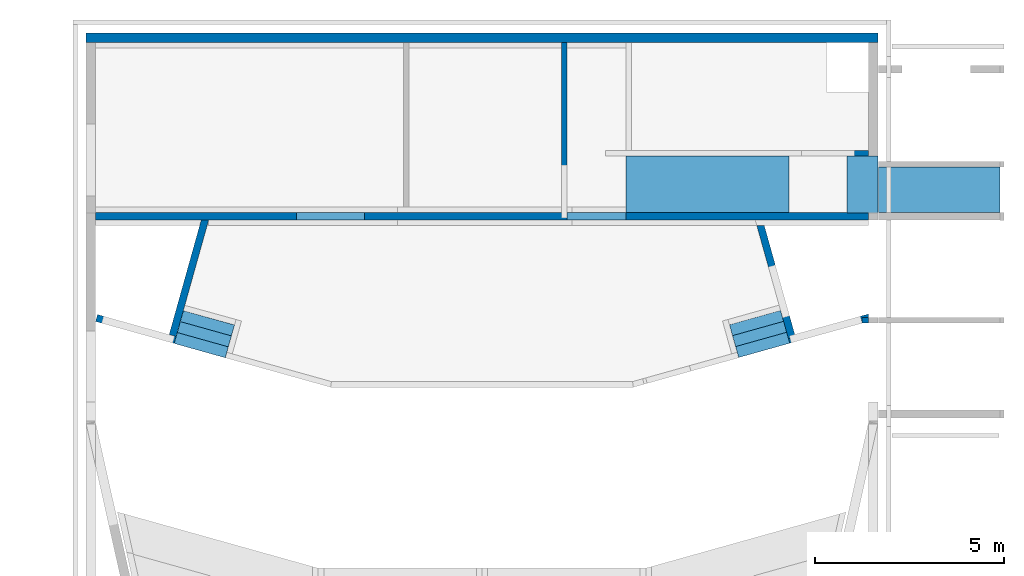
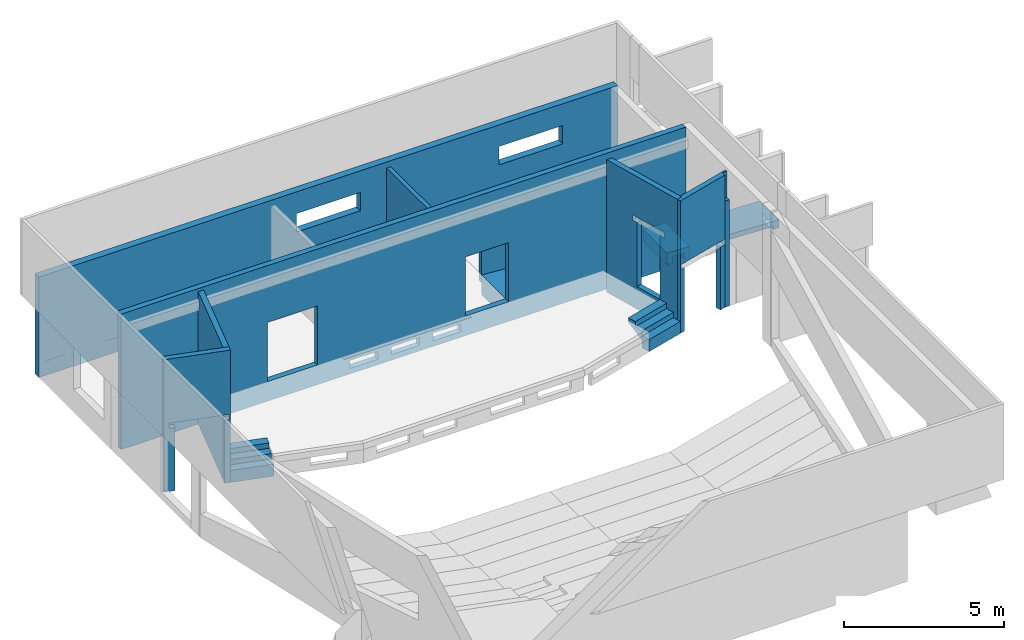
# One storey, part 4 of 5: 9 walls, 3 ramps, 2 stairs, 15 openings.
"""IFC4 building model written with IfcOpenShell, lengths in metres."""

import ifcopenshell
import ifcopenshell.guid

model = None  # the IFC model being written
_history = None  # IfcOwnerHistory: only IFC2X3 demands one
_inside = {}  # id of a spatial element -> (the spatial element, [elements in it])
_under = {}  # id of a project, library or spatial element -> (it, [spatial elements below it])
_declared = {}  # id of a project -> (the project, [libraries it declares])
_typed = {}  # id of a type object -> (the type object, [elements of that type])
_made_of = {}  # id of a material, layer set ... -> (it, [elements and type objects made of it])


def new_model(schema):
    """Start an empty IFC model of exactly this schema.

    Asked for "IFC4X3", IfcOpenShell would pick the latest addendum, in which some entities
    have other attributes; the version numbers below select the first issue.
    IFC2X3 requires an IfcOwnerHistory on every rooted entity: one is made here for all.
    """
    global model, _history
    if schema == "IFC4X3":
        model = ifcopenshell.file(schema_version=(4, 3, 0, 0))
    else:
        model = ifcopenshell.file(schema=schema)
    _inside.clear()
    _under.clear()
    _declared.clear()
    _typed.clear()
    _made_of.clear()
    _history = None
    if model.schema == "IFC2X3":
        org = make("IfcOrganization", Name="unknown")
        user = make(
            "IfcPersonAndOrganization",
            ThePerson=make("IfcPerson", FamilyName="unknown"),
            TheOrganization=org,
        )
        app = make(
            "IfcApplication",
            ApplicationDeveloper=org,
            Version="unknown",
            ApplicationFullName="unknown",
            ApplicationIdentifier="unknown",
        )
        _history = make(
            "IfcOwnerHistory",
            OwningUser=user,
            OwningApplication=app,
            ChangeAction="ADDED",
            CreationDate=0,
        )
    return model


def make(cls, **values):
    """One entity of the class cls with the attributes given. An attribute that is None is left unset."""
    return model.create_entity(
        cls, **{name: value for name, value in values.items() if value is not None}
    )


def entity(cls, *values):
    """Any entity or typed value of the class cls, its attributes in the order of the schema. None: left unset."""
    e = model.create_entity(cls)
    for i, value in enumerate(values):
        if value is not None:
            e[i] = value
    return e


def rooted(cls, **values):
    """An entity with a GlobalId (a new one), such as an element, a storey or a relation."""
    return make(cls, GlobalId=ifcopenshell.guid.new(), OwnerHistory=_history, **values)


def si_unit(unit_type, name, prefix=None):
    """IfcSIUnit, for example si_unit("LENGTHUNIT", "METRE", prefix="MILLI")."""
    return make("IfcSIUnit", UnitType=unit_type, Prefix=prefix, Name=name)


def converted_unit(unit_type, name, factor, base, dimensions=None, offset=None):
    """IfcConversionBasedUnit, such as the inch: factor (a typed value) times the base unit."""
    return make(
        "IfcConversionBasedUnit"
        if offset is None
        else "IfcConversionBasedUnitWithOffset",
        ConversionOffset=offset,
        Dimensions=None
        if dimensions is None
        else entity("IfcDimensionalExponents", *dimensions),
        UnitType=unit_type,
        Name=name,
        ConversionFactor=make(
            "IfcMeasureWithUnit", ValueComponent=factor, UnitComponent=base
        ),
    )


def derived_unit(unit_type, elements):
    """IfcDerivedUnit: a product of units, each with its exponent."""
    return make(
        "IfcDerivedUnit",
        Elements=[
            make("IfcDerivedUnitElement", Unit=unit, Exponent=power)
            for unit, power in elements
        ],
        UnitType=unit_type,
    )


def assignment(units):
    """IfcUnitAssignment: the units of a project."""
    return None if units is None else make("IfcUnitAssignment", Units=units)


def point(xyz):
    """IfcCartesianPoint."""
    return None if xyz is None else make("IfcCartesianPoint", Coordinates=xyz)


def direction(xyz):
    """IfcDirection."""
    return None if xyz is None else make("IfcDirection", DirectionRatios=xyz)


def frame(location, z_axis=None, x_axis=None):
    """IfcAxis2Placement3D, a coordinate frame: its origin and axes. An axis left out is left unset."""
    return make(
        "IfcAxis2Placement3D",
        Location=point(location),
        Axis=direction(z_axis),
        RefDirection=direction(x_axis),
    )


def origin():
    """The frame at (0, 0, 0) with its axes left unset."""
    return frame((0.0, 0.0, 0.0))


def origin_with_axes():
    """The frame at (0, 0, 0) with the z axis (0, 0, 1) and the x axis (1, 0, 0) written out."""
    return frame((0.0, 0.0, 0.0), z_axis=(0.0, 0.0, 1.0), x_axis=(1.0, 0.0, 0.0))


def place(relative_to, where):
    """IfcLocalPlacement: puts the frame where relative to a parent placement (None: the world)."""
    return make(
        "IfcLocalPlacement", PlacementRelTo=relative_to, RelativePlacement=where
    )


def context(
    kind, dimensions, precision=None, world=None, true_north=None, identifier=None
):
    """IfcGeometricRepresentationContext, for example the 3D "Model" context."""
    return make(
        "IfcGeometricRepresentationContext",
        ContextIdentifier=identifier,
        ContextType=kind,
        CoordinateSpaceDimension=dimensions,
        Precision=precision,
        WorldCoordinateSystem=world,
        TrueNorth=true_north,
    )


def subcontext(parent, identifier, kind, view, scale=None):
    """IfcGeometricRepresentationSubContext, for example "Body" below "Model"."""
    return make(
        "IfcGeometricRepresentationSubContext",
        ContextIdentifier=identifier,
        ContextType=kind,
        ParentContext=parent,
        TargetScale=scale,
        TargetView=view,
    )


def project(units=None, contexts=None):
    """IfcProject with its units and contexts."""
    return rooted(
        "IfcProject",
        Name="project",
        RepresentationContexts=contexts,
        UnitsInContext=assignment(units),
    )


def spatial(cls, under=None, at=None, **own):
    """A site, building, storey or space (cls), placed at a placement, below another one or the project."""
    s = rooted(cls, ObjectPlacement=at, **own)
    if under is not None:
        _under.setdefault(under.id(), (under, []))[1].append(s)
    return s


def polyline(points):
    """IfcPolyline through the points."""
    return make("IfcPolyline", Points=[point(p) for p in points])


def outline(outer, holes=None, kind="AREA"):
    """IfcArbitraryClosedProfileDef: a profile drawn as a closed curve; with holes, ...WithVoids."""
    if holes is None:
        return make("IfcArbitraryClosedProfileDef", ProfileType=kind, OuterCurve=outer)
    return make(
        "IfcArbitraryProfileDefWithVoids",
        ProfileType=kind,
        OuterCurve=outer,
        InnerCurves=holes,
    )


def extrude(swept, where, along, depth):
    """IfcExtrudedAreaSolid: the profile swept, set in the frame where, extruded along a direction by depth."""
    return make(
        "IfcExtrudedAreaSolid",
        SweptArea=swept,
        Position=where,
        ExtrudedDirection=direction(along),
        Depth=depth,
    )


def faces_of(points, faces, orient=None, outer=None):
    """IfcFace entities. A face is a list of loops; a loop is a list of indices into points, from 0.

    orient and outer hold one flag for each loop. By default every Orientation is true, the
    first loop of a face is its IfcFaceOuterBound and the others are IfcFaceBound.
    """
    made = []
    for i, loops in enumerate(faces):
        bounds = []
        for j, loop in enumerate(loops):
            is_outer = j == 0 if outer is None else outer[i][j]
            bounds.append(
                make(
                    "IfcFaceOuterBound" if is_outer else "IfcFaceBound",
                    Bound=make("IfcPolyLoop", Polygon=[points[k] for k in loop]),
                    Orientation=True if orient is None else orient[i][j],
                )
            )
        made.append(make("IfcFace", Bounds=bounds))
    return made


def faceted_brep(points, faces, orient=None, outer=None, voids=None):
    """IfcFacetedBrep: a solid bounded by flat faces; with voids (closed shells), ...WithVoids."""
    shared = [point(p) for p in points]
    hull = make("IfcClosedShell", CfsFaces=faces_of(shared, faces, orient, outer))
    if voids is None:
        return make("IfcFacetedBrep", Outer=hull)
    return make(
        "IfcFacetedBrepWithVoids",
        Outer=hull,
        Voids=[
            make(cls, CfsFaces=faces_of(shared, fs, o, b)) for cls, fs, o, b in voids
        ],
    )


def shape(context_of_items, identifier, shape_type, items):
    """IfcShapeRepresentation: the items that make up one representation, for example the "Body"."""
    return make(
        "IfcShapeRepresentation",
        ContextOfItems=context_of_items,
        RepresentationIdentifier=identifier,
        RepresentationType=shape_type,
        Items=items,
    )


def material(Name=None, Category=None):
    """IfcMaterial."""
    return make("IfcMaterial", Name=Name, Category=Category)


def made_of(thing, what):
    """Note that an element or type object is made of a material, layer set ...; save() writes the relation."""
    if what is not None:
        _made_of.setdefault(what.id(), (what, []))[1].append(thing)
    return thing


def element(
    cls,
    number,
    at=None,
    inside=None,
    cuts=None,
    type_object=None,
    material=None,
    context=None,
    identifier="Body",
    shape_type=None,
    held_by="IfcProductDefinitionShape",
    body=None,
    shapes=None,
    **own,
):
    """One element of the class cls, such as IfcWall. Its Tag is "e" and its number.

    at: its placement. inside: the storey or other place that contains it. cuts: it is an
    opening in that element (IfcRelVoidsElement). A single representation is given by context,
    identifier, shape_type and body (its items); several are given by shapes. held_by: the class
    of the entity that holds the representations. save() writes the other relations.
    """
    e = rooted(cls, Tag="e%d" % number, ObjectPlacement=at, **own)
    if body is not None:
        shapes = [shape(context, identifier, shape_type, body)]
    if shapes is not None:
        e.Representation = make(held_by, Representations=shapes)
    if inside is not None:
        _inside.setdefault(inside.id(), (inside, []))[1].append(e)
    if cuts is not None:
        rooted(
            "IfcRelVoidsElement", RelatingBuildingElement=cuts, RelatedOpeningElement=e
        )
    if type_object is not None:
        _typed.setdefault(type_object.id(), (type_object, []))[1].append(e)
    return made_of(e, material)


def aggregate(whole, parts):
    """IfcRelAggregates: a whole, such as a stair, and the parts it consists of."""
    return rooted("IfcRelAggregates", RelatingObject=whole, RelatedObjects=parts)


def save(model, path):
    """Write the relations noted so far, then the file.

    IfcRelAggregates (storeys below a building ...), IfcRelContainedInSpatialStructure (elements
    in a storey), IfcRelDefinesByType, IfcRelAssociatesMaterial and IfcRelDeclares: one each for
    every whole, place, type object, material and project.
    """
    for whole, parts in _under.values():
        aggregate(whole, parts)
    for where, things in _inside.values():
        rooted(
            "IfcRelContainedInSpatialStructure",
            RelatedElements=things,
            RelatingStructure=where,
        )
    for kind, things in _typed.values():
        rooted("IfcRelDefinesByType", RelatedObjects=things, RelatingType=kind)
    for what, things in _made_of.values():
        rooted("IfcRelAssociatesMaterial", RelatedObjects=things, RelatingMaterial=what)
    for by, libraries in _declared.values():
        rooted("IfcRelDeclares", RelatingContext=by, RelatedDefinitions=libraries)
    model.write(path)


model = new_model("IFC4")

# Units and contexts
model_context = context("Model", 3, precision=1e-05, world=origin())
plan_context = context("Plan", 2, precision=1e-05, world=origin())
body_context = subcontext(model_context, "Body", "Model", "MODEL_VIEW")
ifc_project = project(units=[si_unit("LENGTHUNIT", "METRE"), si_unit("AREAUNIT", "SQUARE_METRE"), si_unit("VOLUMEUNIT", "CUBIC_METRE"), si_unit("MASSUNIT", "GRAM", prefix="KILO"), converted_unit("PLANEANGLEUNIT", "DEGREE", entity("IfcPlaneAngleMeasure", 0.0174532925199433), si_unit("PLANEANGLEUNIT", "RADIAN"), dimensions=[0, 0, 0, 0, 0, 0, 0]), derived_unit("THERMALTRANSMITTANCEUNIT", [(si_unit("POWERUNIT", "WATT"), 1), (si_unit("THERMODYNAMICTEMPERATUREUNIT", "KELVIN"), -1), (si_unit("LENGTHUNIT", "METRE"), -2)]), derived_unit("VOLUMETRICFLOWRATEUNIT", [(si_unit("LENGTHUNIT", "METRE"), 3), (converted_unit("TIMEUNIT", "hour", entity("IfcTimeMeasure", 3600.0), si_unit("TIMEUNIT", "SECOND"), dimensions=[0, 0, 1, 0, 0, 0, 0]), -1), (si_unit("LENGTHUNIT", "METRE"), -1)])], contexts=[model_context, plan_context])

# Site, building, storey
site_placement = place(None, origin())
site = spatial("IfcSite", under=ifc_project, at=site_placement, Name="Site", CompositionType="ELEMENT")
building_placement = place(site_placement, origin())
building = spatial("IfcBuilding", under=site, at=building_placement, Name="Auditorium", CompositionType="ELEMENT")
storey_placement = place(building_placement, frame((0.0, 0.0, -0.26)))
storey = spatial("IfcBuildingStorey", under=building, at=storey_placement, Name="00-Rez", CompositionType="ELEMENT", Elevation=-0.26)

# Wall, openings
ifc_material_1 = material(Name="C30/37")
wall_1_placement = place(storey_placement, frame((-0.250199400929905, 22.9556447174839, 0.0)))
wall_1 = element("IfcWall", 1, at=wall_1_placement, inside=storey, material=ifc_material_1, Name="Voile BA Axe 1.7", context=body_context, shape_type="Brep", body=[
    faceted_brep([(0.25, 0.0, 0.75), (14.25, 0.0, 0.75), (14.25, 0.00390572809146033, 0.75), (0.25, 0.00390572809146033, 0.75), (0.25, 0.00390572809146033, 0.55), (14.25, 0.00390572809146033, 0.55), (14.25, 0.0, 0.55), (0.25, 0.0, 0.55), (0.0, 0.25, 0.0), (20.8999999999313, 0.25, 0.0), (20.8999999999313, 0.25, 3.84), (0.0, 0.25, 3.84), (20.8999999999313, 0.0, 0.0), (20.8999999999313, 0.0, 3.84), (0.0, 0.0, 0.0), (0.0, 0.0, 3.84)], [[[0, 1, 2, 3]], [[4, 5, 6, 7]], [[3, 4, 7, 0]], [[1, 6, 5, 2]], [[2, 5, 4, 3]], [[8, 9, 10, 11]], [[9, 12, 13, 10]], [[12, 14, 15, 13], [6, 1, 0, 7]], [[14, 8, 11, 15]], [[15, 11, 10, 13]], [[8, 14, 12, 9]]], orient=[[False], [False], [False], [False], [False], [False], [False], [False, False], [False], [False], [False]]),
])
opening_1_placement = place(wall_1_placement, frame((16.6100273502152, 0.0, 2.31), z_axis=(0.0, 1.0, 0.0), x_axis=(0.0, 0.0, 1.0)))
element("IfcOpeningElement", 2, at=opening_1_placement, cuts=wall_1, Name="Baie de fenêtre", ObjectType="Opening", context=body_context, shape_type="SweptSolid", body=[
    extrude(outline(polyline([(0.0, 2.3), (0.7, 2.3), (0.7, 0.0), (0.0, 0.0), (0.0, 2.3)])), origin_with_axes(), (0.0, 0.0, 1.0), 0.25),
])
opening_2_placement = place(wall_1_placement, frame((9.30002735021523, 0.0, 2.31), z_axis=(0.0, 1.0, 0.0), x_axis=(0.0, 0.0, 1.0)))
element("IfcOpeningElement", 3, at=opening_2_placement, cuts=wall_1, Name="Baie de fenêtre", ObjectType="Opening", context=body_context, shape_type="SweptSolid", body=[
    extrude(outline(polyline([(0.0, 2.3), (0.700000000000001, 2.3), (0.700000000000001, 0.0), (0.0, 0.0), (0.0, 2.3)])), origin_with_axes(), (0.0, 0.0, 1.0), 0.25),
])

ifc_material_2 = material(Name="C30/37")
wall_2_placement = place(storey_placement, frame((-0.000199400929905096, 18.2695504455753, 0.0)))
wall_2 = element("IfcWall", 4, at=wall_2_placement, inside=storey, material=ifc_material_2, Name="Voile BA Axe 1.5", context=body_context, shape_type="Brep", body=[
    faceted_brep([(12.3, 0.189898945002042, 3.18), (12.3, 0.189898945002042, 3.62), (12.3, 0.2, 3.62), (12.3, 0.2, 0.75), (12.3, 0.189898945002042, 0.75), (12.3, 0.189898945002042, 2.98), (12.3, 0.05, 2.98), (12.3, 0.05, 3.18), (12.45, 0.189898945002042, 2.98), (12.45, 0.189898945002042, 0.75), (12.45, 0.2, 0.75), (12.45, 0.2, 3.62), (12.45, 0.189898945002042, 3.62), (12.45, 0.189898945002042, 3.18), (12.45, 0.05, 3.18), (12.45, 0.05, 2.98), (19.8299999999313, 0.2, 0.45), (18.3099999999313, 0.2, 0.45), (18.3099999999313, 0.189898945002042, 0.45), (19.8299999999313, 0.189898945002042, 0.45), (19.8299999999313, 0.189898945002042, 0.25), (18.3099999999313, 0.189898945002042, 0.25), (18.3099999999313, 0.2, 0.25), (19.8299999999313, 0.2, 0.25), (0.0, 0.2, 0.0), (20.3999999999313, 0.2, 0.0), (20.3999999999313, 0.2, 5.18), (0.0, 0.2, 5.18), (20.3999999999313, 0.0, 0.0), (0.0, 0.0, 0.0), (0.0, 0.0, 5.18), (20.3999999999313, 0.0, 5.18)], [[[0, 1, 2, 3, 4, 5, 6, 7]], [[8, 9, 10, 11, 12, 13, 14, 15]], [[8, 5, 4, 9]], [[9, 4, 3, 10]], [[8, 15, 6, 5]], [[0, 7, 14, 13]], [[7, 6, 15, 14]], [[0, 13, 12, 1]], [[11, 2, 1, 12]], [[16, 17, 18, 19]], [[20, 21, 22, 23]], [[19, 20, 23, 16]], [[17, 22, 21, 18]], [[18, 21, 20, 19]], [[24, 25, 26, 27], [2, 11, 10, 3], [22, 17, 16, 23]], [[28, 29, 30, 31]], [[29, 24, 27, 30]], [[25, 28, 31, 26]], [[26, 31, 30, 27]], [[28, 25, 24, 29]]], orient=[[False], [False], [False], [False], [False], [False], [False], [False], [False], [False], [False], [False], [False], [False], [False, False, False], [False], [False], [False], [False], [False]]),
])
opening_3_placement = place(wall_2_placement, frame((10.775, 0.2, 0.21), z_axis=(0.0, -1.0, 0.0), x_axis=(0.0, 0.0, 1.0)))
element("IfcOpeningElement", 5, at=opening_3_placement, cuts=wall_2, Name="Niche dans mur", ObjectType="Opening", context=body_context, shape_type="SweptSolid", body=[
    extrude(outline(polyline([(0.0, 1.0), (0.3, 1.0), (0.3, 0.0), (0.0, 0.0), (0.0, 1.0)])), origin_with_axes(), (0.0, 0.0, 1.0), 0.2),
])
opening_4_placement = place(wall_2_placement, frame((12.275, 0.2, 0.21), z_axis=(0.0, -1.0, 0.0), x_axis=(0.0, 0.0, 1.0)))
element("IfcOpeningElement", 6, at=opening_4_placement, cuts=wall_2, Name="Niche dans mur", ObjectType="Opening", context=body_context, shape_type="SweptSolid", body=[
    extrude(outline(polyline([(0.0, 1.0), (0.3, 1.0), (0.3, 0.0), (0.0, 0.0), (0.0, 1.0)])), origin_with_axes(), (0.0, 0.0, 1.0), 0.2),
])
opening_5_placement = place(wall_2_placement, frame((8.275, 0.0, 0.21), z_axis=(0.0, 1.0, 0.0), x_axis=(0.0, 0.0, 1.0)))
element("IfcOpeningElement", 7, at=opening_5_placement, cuts=wall_2, Name="Niche dans mur", ObjectType="Opening", context=body_context, shape_type="SweptSolid", body=[
    extrude(outline(polyline([(0.0, 1.0), (0.3, 1.0), (0.3, 0.0), (0.0, 0.0), (0.0, 1.0)])), origin_with_axes(), (0.0, 0.0, 1.0), 0.2),
])
opening_6_placement = place(wall_2_placement, frame((9.775, -0.149999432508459, 0.21), z_axis=(0.0, 1.0, 0.0), x_axis=(0.0, 0.0, 1.0)))
element("IfcOpeningElement", 8, at=opening_6_placement, cuts=wall_2, Name="Niche dans mur", ObjectType="Opening", context=body_context, shape_type="SweptSolid", body=[
    extrude(outline(polyline([(0.0, 1.0), (0.3, 1.0), (0.3, 0.0), (0.0, 0.0), (0.0, 1.0)])), origin_with_axes(), (0.0, 0.0, 1.0), 0.15),
])
opening_7_placement = place(wall_2_placement, frame((11.275, -0.149999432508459, 0.21), z_axis=(0.0, 1.0, 0.0), x_axis=(0.0, 0.0, 1.0)))
element("IfcOpeningElement", 9, at=opening_7_placement, cuts=wall_2, Name="Niche dans mur", ObjectType="Opening", context=body_context, shape_type="SweptSolid", body=[
    extrude(outline(polyline([(0.0, 1.0), (0.3, 1.0), (0.3, 0.0), (0.0, 0.0), (0.0, 1.0)])), origin_with_axes(), (0.0, 0.0, 1.0), 0.15),
])
opening_8_placement = place(wall_2_placement, frame((8.275, -0.149999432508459, 0.21), z_axis=(0.0, 1.0, 0.0), x_axis=(0.0, 0.0, 1.0)))
element("IfcOpeningElement", 10, at=opening_8_placement, cuts=wall_2, Name="Niche dans mur", ObjectType="Opening", context=body_context, shape_type="SweptSolid", body=[
    extrude(outline(polyline([(0.0, 1.0), (0.3, 1.0), (0.3, 0.0), (0.0, 0.0), (0.0, 1.0)])), origin_with_axes(), (0.0, 0.0, 1.0), 0.15),
])
opening_9_placement = place(wall_2_placement, frame((5.3, 0.0, 0.75), z_axis=(0.0, 1.0, 0.0), x_axis=(0.0, 0.0, 1.0)))
element("IfcOpeningElement", 11, at=opening_9_placement, cuts=wall_2, Name="Baie de porte", ObjectType="Opening", context=body_context, shape_type="SweptSolid", body=[
    extrude(outline(polyline([(0.0, 1.8), (2.26, 1.8), (2.26, 0.0), (0.0, 0.0), (0.0, 1.8)])), origin_with_axes(), (0.0, 0.0, 1.0), 0.2),
])
opening_10_placement = place(wall_2_placement, frame((12.3, 1.18989894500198, 0.75), z_axis=(1.0, 0.0, 0.0), x_axis=(0.0, 0.0, 1.0)))
element("IfcOpeningElement", 12, at=opening_10_placement, cuts=wall_2, Name="Baie de porte", ObjectType="Opening", context=body_context, shape_type="SweptSolid", body=[
    extrude(outline(polyline([(0.0, 0.999999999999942), (2.23, 0.999999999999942), (2.23, 0.0), (0.0, 0.0), (0.0, 0.999999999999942)])), origin_with_axes(), (0.0, 0.0, 1.0), 0.15),
])
opening_11_placement = place(wall_2_placement, frame((12.45, 0.0, 0.75), z_axis=(0.0, 1.0, 0.0), x_axis=(0.0, 0.0, 1.0)))
element("IfcOpeningElement", 13, at=opening_11_placement, cuts=wall_2, Name="Baie de porte", ObjectType="Opening", context=body_context, shape_type="SweptSolid", body=[
    extrude(outline(polyline([(0.0, 1.55), (2.26, 1.55), (2.26, 0.0), (0.0, 0.0), (0.0, 1.55)])), origin_with_axes(), (0.0, 0.0, 1.0), 0.2),
])

# Wall, opening
ifc_material_3 = material(Name="Silico-calcaire 15 cm")
wall_3_placement = place(storey_placement, frame((13.9998005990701, 19.9594493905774, 0.45)))
wall_3 = element("IfcWall", 14, at=wall_3_placement, inside=storey, material=ifc_material_3, Name="Maçonnerie Audit.", context=body_context, shape_type="Brep", body=[
    faceted_brep([(4.6299999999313, 0.0, 2.41), (6.0299999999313, 0.0, 2.41), (6.0299999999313, 0.15, 2.41), (4.6299999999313, 0.15, 2.41), (4.6299999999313, 0.15, 2.21), (6.0299999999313, 0.15, 2.21), (6.0299999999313, 0.0, 2.21), (4.6299999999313, 0.0, 2.21), (0.0, 0.15, -2.27373675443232e-16), (6.3999999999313, 0.15, -2.27373675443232e-16), (6.3999999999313, 0.15, 3.17), (0.0, 0.15, 3.17), (6.3999999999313, 0.0, -2.27373675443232e-16), (6.3999999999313, 0.0, 3.17), (0.0, 0.0, -2.27373675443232e-16), (0.0, 0.0, 3.17)], [[[0, 1, 2, 3]], [[4, 5, 6, 7]], [[3, 4, 7, 0]], [[1, 6, 5, 2]], [[8, 9, 10, 11], [4, 3, 2, 5]], [[9, 12, 13, 10]], [[12, 14, 15, 13], [6, 1, 0, 7]], [[14, 8, 11, 15]], [[15, 11, 10, 13]], [[8, 14, 12, 9]]], orient=[[False], [False], [False], [False], [False, False], [False], [False, False], [False], [False], [False]]),
])
opening_12_placement = place(wall_3_placement, frame((4.8299999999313, 0.0, 0.11), z_axis=(0.0, 1.0, 0.0), x_axis=(0.0, 0.0, 1.0)))
element("IfcOpeningElement", 15, at=opening_12_placement, cuts=wall_3, Name="Baie de porte", ObjectType="Opening", context=body_context, shape_type="SweptSolid", body=[
    extrude(outline(polyline([(0.0, 1.0), (2.1, 1.0), (2.1, 0.0), (0.0, 0.0), (0.0, 1.0)])), origin_with_axes(), (0.0, 0.0, 1.0), 0.15),
])

# Walls
ifc_material_4 = material(Name="Silico-calcaire 15 cm")
wall_4_placement = place(storey_placement, frame((20.2313957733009, 15.5494493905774, 0.0)))
element("IfcWall", 16, at=wall_4_placement, inside=storey, material=ifc_material_4, Name="Maçonnerie Audit.", context=body_context, shape_type="Brep", body=[
    faceted_brep([(0.0, 0.0332167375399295, 2.61), (0.0, 0.0, 2.61), (0.00917827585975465, 0.0, 2.61), (0.00917827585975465, 0.0, 2.41), (0.0, 0.0, 2.41), (0.0, 0.0332167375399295, 2.41), (0.0, 0.0, 4.06), (0.168404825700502, 0.0, 4.06), (0.168404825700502, 0.0, 0.0), (0.0, 0.0, 0.0), (0.0, 0.149999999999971, 0.0), (0.0, 0.149999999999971, 4.06), (0.168404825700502, 0.149999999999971, 0.0), (0.168404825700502, 0.149999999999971, 4.06)], [[[0, 1, 2]], [[3, 4, 5]], [[2, 3, 5, 0]], [[1, 6, 7, 8, 9, 4, 3, 2]], [[0, 5, 4, 9, 10, 11, 6, 1]], [[10, 12, 13, 11]], [[12, 8, 7, 13]], [[13, 7, 6, 11]], [[8, 12, 10, 9]]], orient=[[False], [False], [False], [False], [False], [False], [False], [False], [False]]),
])
ifc_material_5 = material(Name="Silico-calcaire 15 cm")
wall_5_placement = place(storey_placement, frame((1.94201423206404, 15.1934919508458, 0.0)))
element("IfcWall", 17, at=wall_5_placement, inside=storey, material=ifc_material_5, Name="Maçonnerie Audit.", context=body_context, shape_type="Brep", body=[
    faceted_brep([(0.37293727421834, 0.678639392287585, 0.71), (0.413372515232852, 0.823087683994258, 0.71), (0.412830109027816, 0.823237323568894, 0.71), (0.412830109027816, 0.823237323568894, 0.0), (0.372937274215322, 0.678639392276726, 0.0), (0.413372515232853, 0.823087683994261, 0.0), (0.80475083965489, 2.92605849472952, 4.8), (1.00205466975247, 2.92605849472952, 4.8), (1.04404399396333, 3.07605849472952, 4.8), (0.846740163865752, 3.07605849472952, 4.8), (0.846740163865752, 3.07605849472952, 4.46), (1.04404399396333, 3.07605849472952, 4.46), (1.00205466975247, 2.92605849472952, 4.46), (0.80475083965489, 2.92605849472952, 4.46), (1.04404399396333, 3.07605849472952, 5.06), (0.846740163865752, 3.07605849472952, 5.06), (1.04404399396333, 3.07605849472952, 0.0), (0.846740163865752, 3.07605849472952, 0.0), (0.0, 0.0512176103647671, 0.0), (0.182966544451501, 1.81898940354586e-15, 0.0), (0.0, 0.0512176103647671, 5.06), (0.182966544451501, 1.81898940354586e-15, 5.06)], [[[0, 1, 2]], [[2, 3, 4, 0]], [[1, 5, 3, 2]], [[6, 7, 8, 9]], [[10, 11, 12, 13]], [[6, 13, 12, 7]], [[8, 14, 15, 9]], [[5, 16, 17, 18, 19, 4, 3]], [[9, 15, 20, 18, 17, 10, 13, 6]], [[10, 17, 16, 11]], [[7, 12, 11, 16, 5, 1, 0, 4, 19, 21, 14, 8]], [[19, 18, 20, 21]], [[21, 20, 15, 14]]], orient=[[False], [False], [False], [False], [False], [False], [False], [False], [False], [False], [False], [False], [False]]),
])

# Wall, opening
ifc_material_6 = material(Name="Silico-calcaire 15 cm")
wall_6_placement = place(storey_placement, frame((-0.000199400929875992, 15.0105254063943, 0.0)))
wall_6 = element("IfcWall", 18, at=wall_6_placement, inside=storey, material=ifc_material_6, Name="Maçonnerie Audit.", context=body_context, shape_type="Brep", body=[
    faceted_brep([(2.08666097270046, 0.193749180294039, 2.61), (0.208846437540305, 0.719403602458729, 2.61), (0.157628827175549, 0.536437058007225, 2.61), (2.03544336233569, 0.0107826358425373, 2.61), (2.03544336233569, 0.0107826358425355, 2.41), (0.157628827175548, 0.536437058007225, 2.41), (0.208846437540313, 0.719403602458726, 2.41), (2.08666097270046, 0.193749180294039, 2.41), (0.0512176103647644, 0.763528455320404, 0.0), (2.12518017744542, 0.182966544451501, 0.0), (2.12518017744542, 0.182966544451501, 5.06), (0.0512176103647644, 0.763528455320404, 5.06), (2.07396256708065, 0.0, 0.0), (2.07396256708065, 0.0, 5.06), (-2.27373675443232e-16, 0.580561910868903, 0.0), (-2.27373675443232e-16, 0.580561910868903, 5.06)], [[[0, 1, 2, 3]], [[4, 5, 6, 7]], [[3, 4, 7, 0]], [[1, 6, 5, 2]], [[8, 9, 10, 11], [6, 1, 0, 7]], [[9, 12, 13, 10]], [[12, 14, 15, 13], [4, 3, 2, 5]], [[14, 8, 11, 15]], [[15, 11, 10, 13]], [[8, 14, 12, 9]]], orient=[[False], [False], [False], [False], [False, False], [False], [False, False], [False], [False], [False]]),
])
opening_13_placement = place(wall_6_placement, frame((0.350225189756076, 0.482523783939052, 0.0), z_axis=(0.269566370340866, 0.962981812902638, 0.0), x_axis=(0.0, 0.0, 1.0)))
element("IfcOpeningElement", 19, at=opening_13_placement, cuts=wall_6, Name="Baie de porte", ObjectType="Opening", context=body_context, shape_type="SweptSolid", body=[
    extrude(outline(polyline([(0.0, 1.6), (2.41, 1.6), (2.41, 0.0), (0.0, 0.0), (0.0, 1.6)])), origin_with_axes(), (0.0, 0.0, 1.0), 0.19),
])

ifc_material_7 = material(Name="Silico-calcaire 15 cm")
wall_7_placement = place(storey_placement, frame((17.4552930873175, 15.1373971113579, 0.0)))
wall_7 = element("IfcWall", 20, at=wall_7_placement, inside=storey, material=ifc_material_7, Name="Maçonnerie Audit.", context=body_context, shape_type="Brep", body=[
    faceted_brep([(0.873101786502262, 0.0107243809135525, 2.61), (1.01775723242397, 0.0512176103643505, 2.61), (1.00045354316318, 0.113032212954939, 2.61), (0.855871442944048, 0.0730820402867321, 2.61), (0.855871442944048, 0.0730820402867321, 2.41), (1.00045354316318, 0.113032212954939, 2.41), (1.01775723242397, 0.0512176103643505, 2.41), (0.873101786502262, 0.0107243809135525, 2.41), (0.864570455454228, 0.598452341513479, 3.51), (0.487177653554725, 1.94662646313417, 3.51), (0.304211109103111, 1.8954088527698, 3.51), (0.68160391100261, 0.547234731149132, 3.51), (0.68160391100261, 0.54723473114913, 3.31), (0.304211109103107, 1.89540885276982, 3.31), (0.487177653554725, 1.94662646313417, 3.31), (0.864570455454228, 0.598452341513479, 3.31), (1.01775723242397, 0.0512176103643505, 5.06), (0.197303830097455, 2.98215333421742, 5.06), (0.197303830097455, 2.98215333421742, 0.0), (1.01775723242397, 0.0512176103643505, 0.0), (0.834790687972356, 1.81898940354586e-15, 0.0), (0.834790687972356, 1.81898940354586e-15, 5.06), (3.63797880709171e-15, 2.98215333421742, 0.0), (3.63797880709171e-15, 2.98215333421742, 5.06)], [[[0, 1, 2, 3]], [[4, 5, 6, 7]], [[3, 4, 7, 0]], [[2, 5, 4, 3]], [[8, 9, 10, 11]], [[12, 13, 14, 15]], [[11, 12, 15, 8]], [[9, 14, 13, 10]], [[1, 16, 17, 18, 19, 6, 5, 2], [14, 9, 8, 15]], [[0, 7, 6, 19, 20, 21, 16, 1]], [[20, 22, 23, 21], [12, 11, 10, 13]], [[22, 18, 17, 23]], [[23, 17, 16, 21]], [[18, 22, 20, 19]]], orient=[[False], [False], [False], [False], [False], [False], [False], [False], [False, False], [False], [False, False], [False], [False], [False]]),
])
opening_14_placement = place(wall_7_placement, frame((0.358124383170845, 1.70281249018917, 0.86), z_axis=(0.962981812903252, 0.269566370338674, 0.0), x_axis=(0.0, 0.0, 1.0)))
element("IfcOpeningElement", 21, at=opening_14_placement, cuts=wall_7, Name="Baie de porte", ObjectType="Opening", context=body_context, shape_type="SweptSolid", body=[
    extrude(outline(polyline([(0.0, 0.999999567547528), (2.45, 0.999999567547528), (2.45, 0.0), (0.0, 0.0), (0.0, 0.999999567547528)])), origin_with_axes(), (0.0, 0.0, 1.0), 0.189999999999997),
])

ifc_material_8 = material(Name="Silico-calcaire 15 cm")
wall_8_placement = place(storey_placement, frame((18.290982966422, 15.0169947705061, 0.0)))
wall_8 = element("IfcWall", 22, at=wall_8_placement, inside=storey, material=ifc_material_8, Name="Maçonnerie Audit.", context=body_context, shape_type="Brep", body=[
    faceted_brep([(0.0707851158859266, 0.0103470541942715, 2.61), (1.95035241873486, 0.529699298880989, 2.61), (1.94959108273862, 0.532454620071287, 2.61), (1.94041280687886, 0.532454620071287, 2.61), (1.94041280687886, 0.565671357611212, 2.61), (1.89974886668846, 0.712836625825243, 2.61), (0.164763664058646, 0.233434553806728, 2.61), (0.182067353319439, 0.171619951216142, 2.61), (0.0374119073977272, 0.13112672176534, 2.61), (0.0374119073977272, 0.13112672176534, 2.41), (0.182067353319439, 0.171619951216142, 2.41), (0.164763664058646, 0.233434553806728, 2.41), (1.89974886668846, 0.712836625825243, 2.41), (1.94041280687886, 0.565671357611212, 2.41), (1.94041280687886, 0.532454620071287, 2.41), (1.94959108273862, 0.532454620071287, 2.41), (1.95035241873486, 0.529699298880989, 2.41), (0.0707851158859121, 0.0103470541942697, 2.41), (0.182067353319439, 0.171619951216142, 0.0), (0.164763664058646, 0.233434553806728, 0.0), (0.182067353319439, 0.171619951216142, 5.06), (0.0, 0.120654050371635, 5.06), (0.0, 0.120654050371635, 0.0), (0.164763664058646, 0.233434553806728, 5.06), (2.10881763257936, 0.770605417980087, 0.0), (2.10881763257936, 0.770605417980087, 5.06), (2.10881763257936, 0.682454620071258, 0.0), (2.10881763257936, 0.682454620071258, 5.06), (1.94041280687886, 0.682454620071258, 0.0), (1.94041280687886, 0.682454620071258, 5.06), (1.94041280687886, 0.532454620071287, 5.06), (1.94041280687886, 0.532454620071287, 0.0), (1.9603240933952, 0.532454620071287, 0.0), (1.9603240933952, 0.532454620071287, 5.06), (0.0333384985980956, 0.0, 0.0), (0.0333384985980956, 0.0, 5.06)], [[[0, 1, 2, 3, 4, 5, 6, 7, 8]], [[9, 10, 11, 12, 13, 14, 15, 16, 17]], [[8, 9, 17, 0]], [[1, 16, 15, 2]], [[4, 13, 12, 5]], [[10, 18, 19, 11]], [[9, 8, 7, 20, 21, 22, 18, 10]], [[6, 23, 20, 7]], [[5, 12, 11, 19, 24, 25, 23, 6]], [[24, 26, 27, 25]], [[26, 28, 29, 27]], [[13, 4, 3, 30, 29, 28, 31, 14]], [[14, 31, 32, 33, 30, 3, 2, 15]], [[32, 34, 35, 33], [16, 1, 0, 17]], [[34, 22, 21, 35]], [[35, 21, 20, 23, 25, 27, 29, 30, 33]], [[22, 34, 32, 31, 28, 26, 24, 19, 18]]], orient=[[False], [False], [False], [False], [False], [False], [False], [False], [False], [False], [False], [False], [False], [False, False], [False], [False], [False]]),
])
opening_15_placement = place(wall_8_placement, frame((0.215367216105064, 0.0502972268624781, 0.0), z_axis=(-0.266334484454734, 0.963880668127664, 0.0), x_axis=(0.0, 0.0, 1.0)))
element("IfcOpeningElement", 23, at=opening_15_placement, cuts=wall_8, Name="Baie de porte", ObjectType="Opening", context=body_context, shape_type="SweptSolid", body=[
    extrude(outline(polyline([(0.0, 1.6), (2.41, 1.6), (2.41, 0.0), (0.0, 0.0), (0.0, 1.6)])), origin_with_axes(), (0.0, 0.0, 1.0), 0.189999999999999),
])

# Wall
ifc_material_9 = material(Name="Silico-calcaire 15 cm")
wall_9_placement = place(storey_placement, frame((12.2998005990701, 18.4594493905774, 0.75)))
element("IfcWall", 24, at=wall_9_placement, inside=storey, material=ifc_material_9, Name="Maçonnerie Audit.", context=body_context, shape_type="Brep", body=[
    faceted_brep([(0.0, 1.2601010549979, 2.43), (0.0, 0.0, 2.43), (0.15, 0.0, 2.43), (0.15, 1.2601010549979, 2.43), (0.15, 1.2601010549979, 2.23), (0.15, 0.0, 2.23), (0.0, 0.0, 2.23), (0.0, 1.2601010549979, 2.23), (0.0, 0.0, 2.87), (0.15, 0.0, 2.87), (0.0, 0.0, 0.0), (0.0, 4.49, 0.0), (0.0, 4.49, 2.87), (0.15, 4.49, 0.0), (0.15, 4.49, 2.87), (0.15, 0.0, 0.0)], [[[0, 1, 2, 3]], [[4, 5, 6, 7]], [[3, 4, 7, 0]], [[1, 8, 9, 2]], [[0, 7, 6, 10, 11, 12, 8, 1]], [[11, 13, 14, 12]], [[2, 9, 14, 13, 15, 5, 4, 3]], [[5, 15, 10, 6]], [[9, 8, 12, 14]], [[10, 15, 13, 11]]], orient=[[False], [False], [False], [False], [False], [False], [False], [False], [False], [False]]),
])

# Stairs
ifc_material_10 = material(Name="C30/37")
stair_1_placement = place(storey_placement, frame((16.7335371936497, 14.6396018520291, 0.0)))
element("IfcStair", 25, at=stair_1_placement, inside=storey, material=ifc_material_10, Name="Escalier BA", PredefinedType="NOTDEFINED", context=body_context, shape_type="Brep", body=[
    faceted_brep([(1.5099143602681, 0.66628746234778, 0.279722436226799), (1.34817453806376, 1.24407655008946, 0.679722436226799), (0.0, 0.866683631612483, 0.679722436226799), (0.161739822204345, 0.2888945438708, 0.279722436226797), (0.161739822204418, 0.288894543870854, 0.66), (0.080869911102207, 0.577789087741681, 0.66), (1.42904444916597, 0.955182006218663, 0.66), (1.50991436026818, 0.666287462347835, 0.66), (1.5099143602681, 0.66628746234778, 0.46), (0.161739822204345, 0.2888945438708, 0.46), (0.080869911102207, 0.577789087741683, 0.86), (0.0, 0.866683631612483, 0.86), (1.34817453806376, 1.24407655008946, 0.86), (1.42904444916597, 0.955182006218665, 0.86), (0.242609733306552, 0.0, 0.46), (1.59078427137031, 0.377392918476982, 0.46), (1.59078427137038, 0.37739291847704, 5.6843418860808e-17), (0.242609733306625, 5.63886715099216e-14, 5.6843418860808e-17), (0.161739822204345, 0.2888945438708, 5.6843418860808e-17), (1.5099143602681, 0.66628746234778, 5.6843418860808e-17)], [[[0, 1, 2, 3]], [[4, 5, 6, 7]], [[4, 7, 8, 9]], [[10, 11, 12, 13]], [[12, 11, 2, 1]], [[10, 13, 6, 5]], [[14, 9, 8, 15]], [[14, 15, 16, 17]], [[18, 19, 0, 3]], [[14, 17, 18, 3, 2, 11, 10, 5, 4, 9]], [[15, 8, 7, 6, 13, 12, 1, 0, 19, 16]], [[16, 19, 18, 17]]], orient=[[False], [False], [False], [False], [False], [False], [False], [False], [False], [False], [False], [False]]),
])
ifc_material_11 = material(Name="C30/37")
stair_2_placement = place(storey_placement, frame((2.07559669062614, 14.6326152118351, 0.0)))
element("IfcStair", 26, at=stair_2_placement, inside=storey, material=ifc_material_11, Name="Escalier BA", PredefinedType="NOTDEFINED", context=body_context, shape_type="Brep", body=[
    faceted_brep([(1.42904444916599, 0.288894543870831, 0.2797224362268), (1.59078427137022, 0.866683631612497, 0.679722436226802), (0.242609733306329, 1.244076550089, 0.679722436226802), (0.0808699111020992, 0.666287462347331, 0.279722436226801), (0.0808699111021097, 0.666287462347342, 0.66), (0.161739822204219, 0.955182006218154, 0.66), (1.50991436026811, 0.577789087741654, 0.66), (1.429044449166, 0.288894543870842, 0.66), (1.429044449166, 0.288894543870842, 0.46), (0.0808699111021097, 0.666287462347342, 0.46), (0.161739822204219, 0.955182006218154, 0.86), (0.242609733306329, 1.244076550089, 0.86), (1.59078427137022, 0.866683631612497, 0.86), (1.50991436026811, 0.577789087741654, 0.86), (0.0, 0.3773929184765, 0.46), (1.34817453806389, -1.81898940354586e-15, 0.46), (1.34817453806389, -1.81898940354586e-15, 5.6843418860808e-17), (0.0, 0.3773929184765, 5.6843418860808e-17), (0.0808699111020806, 0.666287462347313, 5.6843418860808e-17), (1.42904444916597, 0.288894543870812, 5.6843418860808e-17)], [[[0, 1, 2, 3]], [[4, 5, 6, 7]], [[4, 7, 8, 9]], [[10, 11, 12, 13]], [[12, 11, 2, 1]], [[10, 13, 6, 5]], [[14, 9, 8, 15]], [[14, 15, 16, 17]], [[18, 19, 0, 3]], [[14, 17, 18, 3, 2, 11, 10, 5, 4, 9]], [[15, 8, 7, 6, 13, 12, 1, 0, 19, 16]], [[16, 19, 18, 17]]], orient=[[False], [False], [False], [False], [False], [False], [False], [False], [False], [False], [False], [False]]),
])

# Ramps
ifc_material_12 = material(Name="C30/37")
ramp_1_placement = place(storey_placement, frame((20.6698005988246, 18.4695626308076, 0.0)))
element("IfcRamp", 27, at=ramp_1_placement, inside=storey, material=ifc_material_12, Name="Rampe BA", context=body_context, shape_type="Brep", body=[
    faceted_brep([(-3.63797880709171e-15, 1.2, 0.419638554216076), (1.7680213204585e-10, 0.0, 0.419638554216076), (1.76798494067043e-10, 0.0, 0.0), (-3.63797880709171e-15, 1.2, 0.0), (0.200000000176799, 0.0, 0.0), (0.199999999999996, 1.2, 0.0), (0.200000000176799, 0.0, 0.212409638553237), (0.199999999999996, 1.2, 0.212409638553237), (3.00999999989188, 1.2, 0.107228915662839), (3.00999999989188, 1.2, 0.0), (3.20999999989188, 1.2, 0.0), (3.20999999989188, 1.2, 0.3), (3.21000000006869, 0.0, 0.3), (3.21000000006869, 0.0, 0.0), (3.01000000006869, 0.0, 0.0), (3.01000000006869, 0.0, 0.107228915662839)], [[[0, 1, 2, 3]], [[3, 2, 4, 5]], [[5, 4, 6, 7]], [[3, 5, 7, 8, 9, 10, 11, 0]], [[1, 12, 13, 14, 15, 6, 4, 2]], [[8, 15, 14, 9]], [[15, 8, 7, 6]], [[13, 10, 9, 14]], [[12, 11, 10, 13]], [[11, 12, 1, 0]]], orient=[[False], [False], [False], [False], [False], [False], [False], [False], [False], [False]]),
])
ifc_material_13 = material(Name="C30/37")
ramp_2_placement = place(storey_placement, frame((19.8298005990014, 18.4594493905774, 0.0)))
element("IfcRamp", 28, at=ramp_2_placement, inside=storey, material=ifc_material_13, Name="Rampe BA", context=body_context, shape_type="Brep", body=[
    faceted_brep([(3.63797880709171e-15, 0.0, 0.0), (3.63797880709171e-15, 1.50000004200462, 0.0), (3.63797880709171e-15, 1.50000004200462, 0.45), (3.63797880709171e-15, 0.0, 0.45), (0.820000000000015, 0.0, 0.42036144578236), (0.820000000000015, 1.50000004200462, 0.42036144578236), (0.200000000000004, 0.0, 0.0), (0.200000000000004, 1.50000004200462, 0.0), (0.200000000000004, 0.0, 0.242771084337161), (0.200000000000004, 1.50000004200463, 0.242771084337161), (0.620000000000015, 1.50000004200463, 0.227590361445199), (0.620000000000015, 7.27595761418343e-15, 0.227590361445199), (0.820000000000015, 1.50000004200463, 0.0), (0.820000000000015, 7.27595761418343e-15, 0.0), (0.620000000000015, 7.27595761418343e-15, 0.0), (0.620000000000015, 1.50000004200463, 0.0)], [[[0, 1, 2, 3]], [[4, 3, 2, 5]], [[6, 7, 1, 0]], [[7, 6, 8, 9]], [[10, 9, 8, 11]], [[12, 13, 4, 5]], [[10, 11, 14, 15]], [[5, 2, 1, 7, 9, 10, 15, 12]], [[15, 14, 13, 12]], [[13, 14, 11, 8, 6, 0, 3, 4]]], orient=[[False], [False], [False], [False], [False], [False], [False], [False], [False], [False]]),
])
ifc_material_14 = material(Name="C30/37")
ramp_3_placement = place(storey_placement, frame((13.9998005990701, 18.4594493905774, 0.0)))
element("IfcRamp", 29, at=ramp_3_placement, inside=storey, material=ifc_material_14, Name="Rampe BA", context=body_context, shape_type="Brep", body=[
    faceted_brep([(4.1099999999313, 1.5, 0.261735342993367), (4.1099999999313, 3.63797880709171e-15, 0.261735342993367), (4.1099999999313, 3.63797880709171e-15, 0.0), (4.1099999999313, 1.5, 0.0), (4.3099999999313, 3.63797880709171e-15, 0.0), (4.3099999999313, 1.5, 0.0), (4.3099999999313, 0.0, 0.45), (4.3099999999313, 1.5, 0.45), (0.0, 1.5, 0.75), (1.81898940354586e-15, 1.5, 1.13686837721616e-16), (0.200000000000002, 1.5, 1.13686837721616e-16), (0.200000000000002, 1.5, 0.537245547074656), (0.200000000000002, 0.0, 0.537245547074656), (0.200000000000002, 3.63797880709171e-15, 1.13686837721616e-16), (1.81898940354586e-15, 3.63797880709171e-15, 1.13686837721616e-16), (0.0, 0.0, 0.75)], [[[0, 1, 2, 3]], [[3, 2, 4, 5]], [[5, 4, 6, 7]], [[3, 5, 7, 8, 9, 10, 11, 0]], [[1, 12, 13, 14, 15, 6, 4, 2]], [[15, 14, 9, 8]], [[7, 6, 15, 8]], [[11, 12, 1, 0]], [[9, 14, 13, 10]], [[10, 13, 12, 11]]], orient=[[False], [False], [False], [False], [False], [False], [False], [False], [False], [False]]),
])

save(model, "model.ifc")
